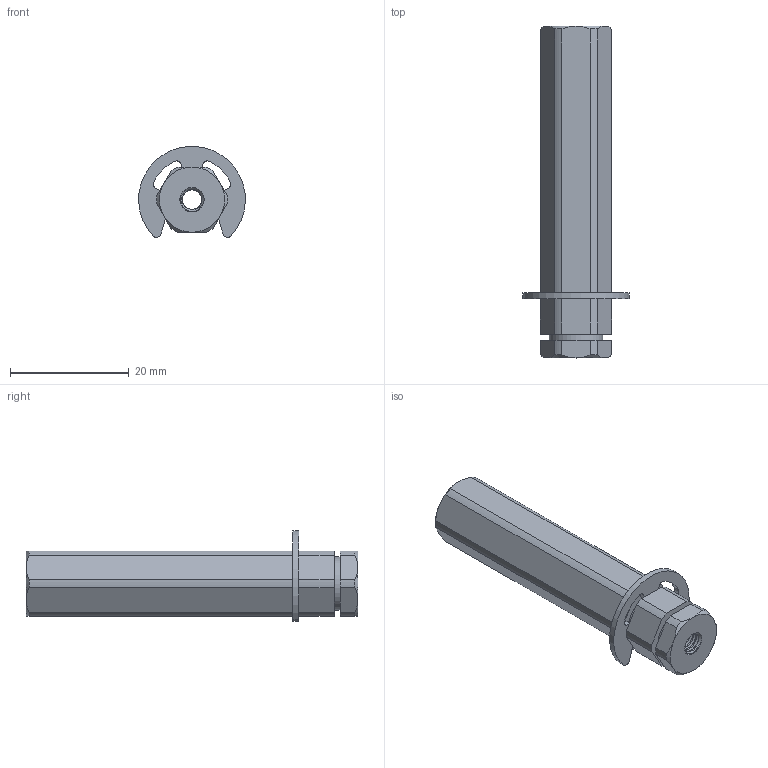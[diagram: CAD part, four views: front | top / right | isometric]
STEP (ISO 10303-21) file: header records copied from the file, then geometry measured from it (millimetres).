
FILE_DESCRIPTION(/* description */ (''),/* implementation_level */ '2;1');
FILE_NAME(/* name */ '2109-4012-0560.step',/* time_stamp */ '2026-06-23T16:34:02-05:00',/* author */ (''),/* organization */ (''),/* preprocessor_version */ 'ST-DEVELOPER v20.1',/* originating_system */ 'Autodesk Translation Framework v15.8.0.0',/* authorisation */ '');
FILE_SCHEMA (('AUTOMOTIVE_DESIGN { 1 0 10303 214 3 1 1 }'));
Length unit declared in the file: millimetre
Products named in the file (2): 2109-4012-0560 (Slot 1); 2824-0002-0091
Assembly tree (1 placements, depth 2):
  2109-4012-0560 (Slot 1)
    2824-0002-0091
Bounding box: 17.97 x 56 x 15.35 mm (x, y, z)
Volume: 5533 mm3; surface area: 3179.6 mm2
Topology: 2 solids, 2 shells, 164 faces, 456 edges, 300 vertices
Faces by surface type: cylinder 110, plane 34, cone 16, bspline 4
Full cylindrical faces by diameter (mm): 3.3 x34, 4 x32, 9 x2
Entity records: 14176 total; most frequent: CARTESIAN_POINT 10207, ORIENTED_EDGE 908, DIRECTION 706, EDGE_CURVE 454, VERTEX_POINT 300, AXIS2_PLACEMENT_3D 267, LINE 172, VECTOR 172
